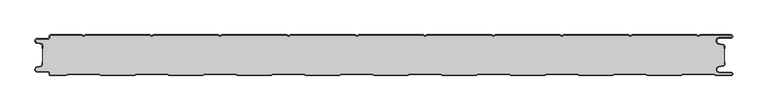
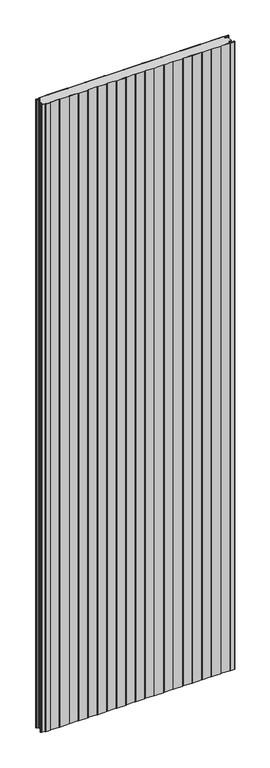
"""IFC4 building model written with IfcOpenShell, lengths in millimetres: plate geometry, PMH_Curtain-PaneL-Standard : ACH_PMH_Stone-wool-Panel_60M."""

from ifc_helpers import new_model, si_unit, point, frame_2d, origin, origin_with_axes, place, context, project, spatial, polyline, circle_curve, trimmed, segment, composite_curve, outline, extrude, source, transform, mapped, element, save


def plate_e2519dcc(model_context):
    return source(origin(), model_context, "Body", "SweptSolid", [
        extrude(outline(composite_curve([segment(trimmed(circle_curve(frame_2d((-502.0, -15.878557)), 2.0), [point((-500.0, -15.878557))], [point((-501.5500978, -13.9298169))], True, "CARTESIAN"), True, "CONTINUOUS"), segment(polyline([(-501.5500978, -13.9298169), (-507.7098239, -12.507732)]), True, "CONTINUOUS"), segment(trimmed(circle_curve(frame_2d((-506.9, -9.0)), 3.6), [point((-507.7098239, -12.507732))], [point((-506.9, -5.4))], False, "CARTESIAN"), True, "CONTINUOUS"), segment(polyline([(-506.9, -5.4), (-491.4, -5.4)]), True, "CONTINUOUS"), segment(trimmed(circle_curve(frame_2d((-491.4, -3.4)), 2.0), [point((-491.4, -5.4))], [point((-489.4, -3.4))], True, "CARTESIAN"), True, "CONTINUOUS"), segment(polyline([(-489.4, -3.4), (-489.4, -2.0)]), True, "CONTINUOUS"), segment(trimmed(circle_curve(frame_2d((-487.4, -2.0)), 2.0), [point((-489.4, -2.0))], [point((-487.4, 0.0))], False, "CARTESIAN"), True, "CONTINUOUS"), segment(polyline([(-487.4, 0.0), (-442.0999995, 0.0), (-439.4, -1.5588455), (-436.7000005, 0.0), (-342.0999995, 0.0), (-339.4, -1.5588455), (-336.7000005, 0.0), (-242.0999995, 0.0), (-239.4, -1.5588455), (-236.7000005, 0.0), (-142.0999995, 0.0), (-139.4, -1.5588455), (-136.7000005, 0.0), (-42.0999995, 0.0), (-39.4, -1.5588455), (-36.7000005, 0.0), (57.9000005, 0.0), (60.6, -1.5588455), (63.2999995, 0.0), (157.9000005, 0.0), (160.6, -1.5588455), (163.2999995, 0.0), (257.9000005, 0.0), (260.6, -1.5588455), (263.2999995, 0.0), (357.9000005, 0.0), (360.6, -1.5588455), (363.2999995, 0.0), (457.9000005, 0.0), (460.6, -1.5588455), (463.2999995, 0.0), (508.1, 0.0)]), True, "CONTINUOUS"), segment(trimmed(circle_curve(frame_2d((508.1, -2.5)), 2.5), [point((508.1, 0.0))], [point((508.1, -5.0))], False, "CARTESIAN"), True, "CONTINUOUS"), segment(polyline([(508.1, -5.0), (491.1, -5.0)]), True, "CONTINUOUS"), segment(trimmed(circle_curve(frame_2d((491.1, -9.0)), 4.0), [point((491.1, -5.0))], [point((490.405407, -12.939231))], True, "CARTESIAN"), True, "CONTINUOUS"), segment(polyline([(490.405407, -12.939231), (496.8514855, -14.0758491)]), True, "CONTINUOUS"), segment(trimmed(circle_curve(frame_2d((496.4, -16.6363492)), 2.6), [point((496.8514855, -14.0758491))], [point((499.0, -16.6363492))], False, "CARTESIAN"), True, "CONTINUOUS"), segment(polyline([(499.0, -16.6363492), (499.0, -20.0), (498.2, -20.0), (498.2, -16.6363492)]), True, "CONTINUOUS"), segment(trimmed(circle_curve(frame_2d((496.4, -16.6363492)), 1.8), [point((498.2, -16.6363492))], [point((496.7125669, -14.8636953))], True, "CARTESIAN"), True, "CONTINUOUS"), segment(polyline([(496.7125669, -14.8636953), (490.2664884, -13.7270772)]), True, "CONTINUOUS"), segment(trimmed(circle_curve(frame_2d((491.1, -9.0)), 4.8), [point((490.2664884, -13.7270772))], [point((491.1, -4.2))], False, "CARTESIAN"), True, "CONTINUOUS"), segment(polyline([(491.1, -4.2), (508.1, -4.2)]), True, "CONTINUOUS"), segment(trimmed(circle_curve(frame_2d((508.1, -2.5)), 1.7), [point((508.1, -4.2))], [point((508.1, -0.8))], True, "CARTESIAN"), True, "CONTINUOUS"), segment(polyline([(508.1, -0.8), (463.5143588, -0.8), (460.6, -2.482606), (457.6856412, -0.8), (363.5143588, -0.8), (360.6, -2.482606), (357.6856412, -0.8), (263.5143588, -0.8), (260.6, -2.482606), (257.6856412, -0.8), (163.5143588, -0.8), (160.6, -2.482606), (157.6856412, -0.8), (63.5143588, -0.8), (60.6, -2.482606), (57.6856412, -0.8), (-36.4856412, -0.8), (-39.4, -2.482606), (-42.3143588, -0.8), (-136.4856412, -0.8), (-139.4, -2.482606), (-142.3143588, -0.8), (-236.4856412, -0.8), (-239.4, -2.482606), (-242.3143588, -0.8), (-336.4856412, -0.8), (-339.4, -2.482606), (-342.3143588, -0.8), (-436.4856412, -0.8), (-439.4, -2.482606), (-442.3143588, -0.8), (-487.4, -0.8)]), True, "CONTINUOUS"), segment(trimmed(circle_curve(frame_2d((-487.4, -2.0)), 1.2), [point((-487.4, -0.8))], [point((-488.6, -2.0))], True, "CARTESIAN"), True, "CONTINUOUS"), segment(polyline([(-488.6, -2.0), (-488.6, -3.4)]), True, "CONTINUOUS"), segment(trimmed(circle_curve(frame_2d((-491.4, -3.4)), 2.8), [point((-488.6, -3.4))], [point((-491.4, -6.2))], False, "CARTESIAN"), True, "CONTINUOUS"), segment(polyline([(-491.4, -6.2), (-506.9, -6.2)]), True, "CONTINUOUS"), segment(trimmed(circle_curve(frame_2d((-506.9, -9.0)), 2.8), [point((-506.9, -6.2))], [point((-507.529863, -11.7282362))], True, "CARTESIAN"), True, "CONTINUOUS"), segment(polyline([(-507.529863, -11.7282362), (-501.370137, -13.150321)]), True, "CONTINUOUS"), segment(trimmed(circle_curve(frame_2d((-502.0, -15.878557)), 2.8), [point((-501.370137, -13.150321))], [point((-499.2, -15.878557))], False, "CARTESIAN"), True, "CONTINUOUS"), segment(polyline([(-499.2, -15.878557), (-499.2, -20.0), (-500.0, -20.0), (-500.0, -15.878557)]), True, "CONTINUOUS")], self_intersect=False)), origin_with_axes(), (0.0, 0.0, 1.0), 3500.0),
        extrude(outline(composite_curve([segment(polyline([(-499.2, -44.121443), (-499.2, -15.8785573)]), True, "CONTINUOUS"), segment(trimmed(circle_curve(frame_2d((-502.0, -15.8785573)), 2.8), [point((-499.2, -15.8785573))], [point((-501.370137, -13.1503212))], True, "CARTESIAN"), True, "CONTINUOUS"), segment(polyline([(-501.370137, -13.1503212), (-507.5298631, -11.7282362)]), True, "CONTINUOUS"), segment(trimmed(circle_curve(frame_2d((-506.9, -9.0)), 2.8), [point((-507.5298631, -11.7282362))], [point((-506.9, -6.2))], False, "CARTESIAN"), True, "CONTINUOUS"), segment(polyline([(-506.9, -6.2), (-491.4000001, -6.2)]), True, "CONTINUOUS"), segment(trimmed(circle_curve(frame_2d((-491.4000001, -3.4)), 2.8), [point((-491.4000001, -6.2))], [point((-488.6000001, -3.4))], True, "CARTESIAN"), True, "CONTINUOUS"), segment(polyline([(-488.6000001, -3.4), (-488.6000001, -2.0)]), True, "CONTINUOUS"), segment(trimmed(circle_curve(frame_2d((-487.4000001, -2.0)), 1.2), [point((-488.6000001, -2.0))], [point((-487.4000001, -0.8))], False, "CARTESIAN"), True, "CONTINUOUS"), segment(polyline([(-487.4000001, -0.8), (-442.3143589, -0.8), (-439.4000001, -2.482606), (-436.4856412, -0.8), (-342.3143589, -0.8), (-339.4000001, -2.482606), (-336.4856412, -0.8), (-242.3143589, -0.8), (-239.4000001, -2.482606), (-236.4856412, -0.8), (-142.3143589, -0.8), (-139.4000001, -2.482606), (-136.4856412, -0.8), (-42.3143589, -0.8), (-39.4000001, -2.482606), (-36.4856412, -0.8), (57.6856411, -0.8), (60.5999999, -2.482606), (63.5143588, -0.8), (157.6856411, -0.8), (160.5999999, -2.482606), (163.5143588, -0.8), (257.6856411, -0.8), (260.5999999, -2.482606), (263.5143588, -0.8), (357.6856411, -0.8), (360.5999999, -2.482606), (363.5143588, -0.8), (457.6856411, -0.8), (460.5999999, -2.482606), (463.5143587, -0.8), (508.1, -0.8)]), True, "CONTINUOUS"), segment(trimmed(circle_curve(frame_2d((508.1, -2.5)), 1.7), [point((508.1, -0.8))], [point((508.1, -4.2))], False, "CARTESIAN"), True, "CONTINUOUS"), segment(polyline([(508.1, -4.2), (491.1, -4.2)]), True, "CONTINUOUS"), segment(trimmed(circle_curve(frame_2d((491.1, -9.0)), 4.8), [point((491.1, -4.2))], [point((490.2664883, -13.7270771))], True, "CARTESIAN"), True, "CONTINUOUS"), segment(polyline([(490.2664883, -13.7270771), (496.7125668, -14.8636953)]), True, "CONTINUOUS"), segment(trimmed(circle_curve(frame_2d((496.4, -16.6363492)), 1.8), [point((496.7125668, -14.8636953))], [point((498.2, -16.6363492))], False, "CARTESIAN"), True, "CONTINUOUS"), segment(polyline([(498.2, -16.6363492), (498.2, -43.363652)]), True, "CONTINUOUS"), segment(trimmed(circle_curve(frame_2d((496.4, -43.363652)), 1.8), [point((498.2, -43.363652))], [point((496.7125666, -45.1363059))], False, "CARTESIAN"), True, "CONTINUOUS"), segment(polyline([(496.7125666, -45.1363059), (490.266489, -46.272923)]), True, "CONTINUOUS"), segment(trimmed(circle_curve(frame_2d((491.1, -51.0000002)), 4.7999999), [point((490.266489, -46.272923))], [point((491.1, -55.8000001))], True, "CARTESIAN"), True, "CONTINUOUS"), segment(polyline([(491.1, -55.8000001), (508.1, -55.8000001)]), True, "CONTINUOUS"), segment(trimmed(circle_curve(frame_2d((508.1, -57.5)), 1.7), [point((508.1, -55.8000001))], [point((508.1, -59.2))], False, "CARTESIAN"), True, "CONTINUOUS"), segment(polyline([(508.1, -59.2), (485.8105122, -59.2), (483.2124346, -57.7), (437.9837184, -57.7), (435.3856408, -59.2), (385.8105122, -59.2), (383.2124346, -57.7), (337.9837184, -57.7), (335.3856408, -59.2), (285.8105122, -59.2), (283.2124346, -57.7), (237.9837184, -57.7), (235.3856408, -59.2), (185.8105122, -59.2), (183.2124346, -57.7), (137.9837184, -57.7), (135.3856408, -59.2), (85.8105122, -59.2), (83.2124346, -57.7), (37.9837184, -57.7), (35.3856408, -59.2), (-14.1894878, -59.2), (-16.7875654, -57.7), (-62.0162816, -57.7), (-64.6143592, -59.2), (-114.1894878, -59.2), (-116.7875654, -57.7), (-162.0162816, -57.7), (-164.6143592, -59.2), (-214.1894878, -59.2), (-216.7875654, -57.7), (-262.0162816, -57.7), (-264.6143592, -59.2), (-314.1894878, -59.2), (-316.7875654, -57.7), (-362.0162816, -57.7), (-364.6143592, -59.2), (-414.1894878, -59.2), (-416.7875654, -57.7), (-462.0162816, -57.7), (-464.6143592, -59.2), (-487.4, -59.2)]), True, "CONTINUOUS"), segment(trimmed(circle_curve(frame_2d((-487.4, -58.0)), 1.2), [point((-487.4, -59.2))], [point((-488.6, -58.0))], False, "CARTESIAN"), True, "CONTINUOUS"), segment(polyline([(-488.6, -58.0), (-488.6, -56.5999998)]), True, "CONTINUOUS"), segment(trimmed(circle_curve(frame_2d((-491.4, -56.5999998)), 2.8), [point((-488.6, -56.5999998))], [point((-491.4, -53.7999998))], True, "CARTESIAN"), True, "CONTINUOUS"), segment(polyline([(-491.4, -53.7999998), (-506.9, -53.7999998)]), True, "CONTINUOUS"), segment(trimmed(circle_curve(frame_2d((-506.9, -51.0)), 2.7999998), [point((-506.9, -53.7999998))], [point((-507.529863, -48.271764))], False, "CARTESIAN"), True, "CONTINUOUS"), segment(polyline([(-507.529863, -48.271764), (-501.370137, -46.8496792)]), True, "CONTINUOUS"), segment(trimmed(circle_curve(frame_2d((-502.0, -44.121443)), 2.8), [point((-501.370137, -46.8496792))], [point((-499.2, -44.121443))], True, "CARTESIAN"), True, "CONTINUOUS")], self_intersect=False)), origin_with_axes(), (0.0, 0.0, 1.0), 3500.0),
        extrude(outline(composite_curve([segment(trimmed(circle_curve(frame_2d((-487.4, -58.0)), 2.0), [point((-487.4, -60.0))], [point((-489.4, -58.0))], False, "CARTESIAN"), True, "CONTINUOUS"), segment(polyline([(-489.4, -58.0), (-489.4, -56.6)]), True, "CONTINUOUS"), segment(trimmed(circle_curve(frame_2d((-491.4, -56.6)), 2.0), [point((-489.4, -56.6))], [point((-491.4, -54.6))], True, "CARTESIAN"), True, "CONTINUOUS"), segment(polyline([(-491.4, -54.6), (-506.9, -54.6)]), True, "CONTINUOUS"), segment(trimmed(circle_curve(frame_2d((-506.9, -51.0)), 3.6), [point((-506.9, -54.6))], [point((-507.7098239, -47.4922678))], False, "CARTESIAN"), True, "CONTINUOUS"), segment(polyline([(-507.7098239, -47.4922678), (-501.5500979, -46.070183)]), True, "CONTINUOUS"), segment(trimmed(circle_curve(frame_2d((-502.0, -44.121443)), 2.0), [point((-501.5500979, -46.070183))], [point((-500.0, -44.121443))], True, "CARTESIAN"), True, "CONTINUOUS"), segment(polyline([(-500.0, -44.121443), (-500.0, -40.0), (-499.2, -40.0), (-499.2, -44.121443)]), True, "CONTINUOUS"), segment(trimmed(circle_curve(frame_2d((-502.0, -44.121443)), 2.8), [point((-499.2, -44.121443))], [point((-501.370137, -46.8496792))], False, "CARTESIAN"), True, "CONTINUOUS"), segment(polyline([(-501.370137, -46.8496792), (-507.529863, -48.271764)]), True, "CONTINUOUS"), segment(trimmed(circle_curve(frame_2d((-506.9, -51.0)), 2.8), [point((-507.529863, -48.271764))], [point((-506.9, -53.8))], True, "CARTESIAN"), True, "CONTINUOUS"), segment(polyline([(-506.9, -53.8), (-491.4, -53.8)]), True, "CONTINUOUS"), segment(trimmed(circle_curve(frame_2d((-491.4, -56.6)), 2.8), [point((-491.4, -53.8))], [point((-488.6, -56.6))], False, "CARTESIAN"), True, "CONTINUOUS"), segment(polyline([(-488.6, -56.6), (-488.6, -58.0)]), True, "CONTINUOUS"), segment(trimmed(circle_curve(frame_2d((-487.4, -58.0)), 1.2), [point((-488.6, -58.0))], [point((-487.4, -59.2))], True, "CARTESIAN"), True, "CONTINUOUS"), segment(polyline([(-487.4, -59.2), (-464.6143592, -59.2), (-462.0162816, -57.7), (-416.7875654, -57.7), (-414.1894878, -59.2), (-364.6143592, -59.2), (-362.0162816, -57.7), (-316.7875654, -57.7), (-314.1894878, -59.2), (-264.6143592, -59.2), (-262.0162816, -57.7), (-216.7875654, -57.7), (-214.1894878, -59.2), (-164.6143592, -59.2), (-162.0162816, -57.7), (-116.7875654, -57.7), (-114.1894878, -59.2), (-64.6143592, -59.2), (-62.0162816, -57.7), (-16.7875654, -57.7), (-14.1894878, -59.2), (35.3856408, -59.2), (37.9837184, -57.7), (83.2124346, -57.7), (85.8105122, -59.2), (135.3856408, -59.2), (137.9837184, -57.7), (183.2124346, -57.7), (185.8105122, -59.2), (235.3856408, -59.2), (237.9837184, -57.7), (283.2124346, -57.7), (285.8105122, -59.2), (335.3856408, -59.2), (337.9837184, -57.7), (383.2124346, -57.7), (385.8105122, -59.2), (435.3856408, -59.2), (437.9837184, -57.7), (483.2124346, -57.7), (485.8105122, -59.2), (508.1, -59.2)]), True, "CONTINUOUS"), segment(trimmed(circle_curve(frame_2d((508.1, -57.5)), 1.7), [point((508.1, -59.2))], [point((508.1, -55.8))], True, "CARTESIAN"), True, "CONTINUOUS"), segment(polyline([(508.1, -55.8), (491.1, -55.8)]), True, "CONTINUOUS"), segment(trimmed(circle_curve(frame_2d((491.1, -51.0)), 4.8), [point((491.1, -55.8))], [point((490.266489, -46.2729227))], False, "CARTESIAN"), True, "CONTINUOUS"), segment(polyline([(490.266489, -46.2729227), (496.7125666, -45.1363058)]), True, "CONTINUOUS"), segment(trimmed(circle_curve(frame_2d((496.4, -43.363652)), 1.8), [point((496.7125666, -45.1363058))], [point((498.2, -43.363652))], True, "CARTESIAN"), True, "CONTINUOUS"), segment(polyline([(498.2, -43.363652), (498.2, -40.0), (499.0, -40.0), (499.0, -43.363652)]), True, "CONTINUOUS"), segment(trimmed(circle_curve(frame_2d((496.4, -43.363652)), 2.6), [point((499.0, -43.363652))], [point((496.8514851, -45.9241522))], False, "CARTESIAN"), True, "CONTINUOUS"), segment(polyline([(496.8514851, -45.9241522), (490.4054075, -47.0607691)]), True, "CONTINUOUS"), segment(trimmed(circle_curve(frame_2d((491.1, -51.0)), 4.0), [point((490.4054075, -47.0607691))], [point((491.1, -55.0))], True, "CARTESIAN"), True, "CONTINUOUS"), segment(polyline([(491.1, -55.0), (508.1, -55.0)]), True, "CONTINUOUS"), segment(trimmed(circle_curve(frame_2d((508.1, -57.5)), 2.5), [point((508.1, -55.0))], [point((508.1, -60.0))], False, "CARTESIAN"), True, "CONTINUOUS"), segment(polyline([(508.1, -60.0), (485.5961529, -60.0), (482.9980753, -58.5), (438.1980777, -58.5), (435.6000001, -60.0), (385.5961529, -60.0), (382.9980753, -58.5), (338.1980777, -58.5), (335.6000001, -60.0), (285.5961529, -60.0), (282.9980753, -58.5), (238.1980777, -58.5), (235.6000001, -60.0), (185.5961529, -60.0), (182.9980753, -58.5), (138.1980777, -58.5), (135.6000001, -60.0), (85.5961529, -60.0), (82.9980753, -58.5), (38.1980777, -58.5), (35.6000001, -60.0), (-14.4038471, -60.0), (-17.0019247, -58.5), (-61.8019223, -58.5), (-64.3999999, -60.0), (-114.4038471, -60.0), (-117.0019247, -58.5), (-161.8019223, -58.5), (-164.3999999, -60.0), (-214.4038471, -60.0), (-217.0019247, -58.5), (-261.8019223, -58.5), (-264.3999999, -60.0), (-314.4038471, -60.0), (-317.0019247, -58.5), (-361.8019223, -58.5), (-364.3999999, -60.0), (-414.4038471, -60.0), (-417.0019247, -58.5), (-461.8019223, -58.5), (-464.3999999, -60.0), (-487.4, -60.0)]), True, "CONTINUOUS")], self_intersect=False)), origin_with_axes(), (0.0, 0.0, 1.0), 3500.0),
    ])


if __name__ == "__main__":
    model = new_model("IFC4")
    model_context = context("Model", 3, world=origin())
    ifc_project = project(units=[si_unit("LENGTHUNIT", "METRE", prefix="MILLI")], contexts=[model_context])
    site = spatial("IfcSite", under=ifc_project)
    building = spatial("IfcBuilding", under=site)
    placement = place(None, origin())
    plate_shape = plate_e2519dcc(model_context)
    element("IfcPlate", 1, ObjectType="PMH_Curtain-PaneL-Standard : ACH_PMH_Stone-wool-Panel_60M", at=placement, inside=building, context=model_context, shape_type="MappedRepresentation", body=[
        mapped(plate_shape, transform((0.0, 0.0, 0.0), x_axis=(1.0, 0.0, 0.0), y_axis=(0.0, 1.0, 0.0), z_axis=(0.0, 0.0, 1.0))),
    ])
    save(model, "model.ifc")
